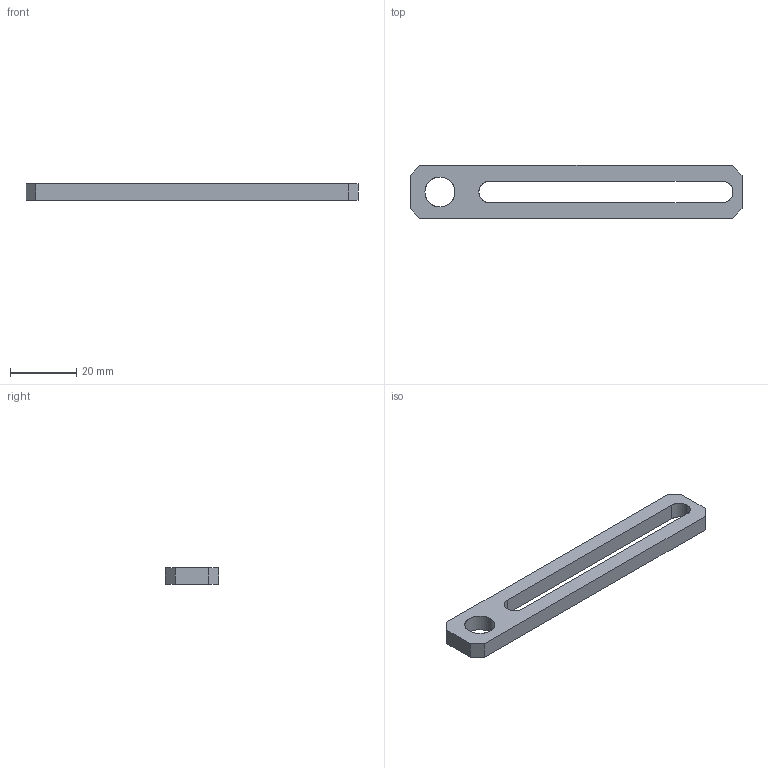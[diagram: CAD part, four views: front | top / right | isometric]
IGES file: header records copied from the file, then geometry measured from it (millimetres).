
Start section: SolidWorks IGES file using analytic representation for surfaces
Global section: file name: C:\Documents and Settings\CAD53\デスクトップ\IGES\N01863-120-1.IGS; native system: SolidWorks 2005 by SolidWorks Corporation; preprocessor: SolidWorks 2005 by SolidWorks Corporation; author: CAD53; date: 070530.110226; units: millimetre
Bounding box: 100 x 16 x 5 mm (x, y, z)
Surface area: 4128.7 mm2 (no closed solid volume)
Topology: 0 solids, 0 shells, 17 faces, 208 edges, 208 vertices
Faces by surface type: bspline 12, revolution 5
